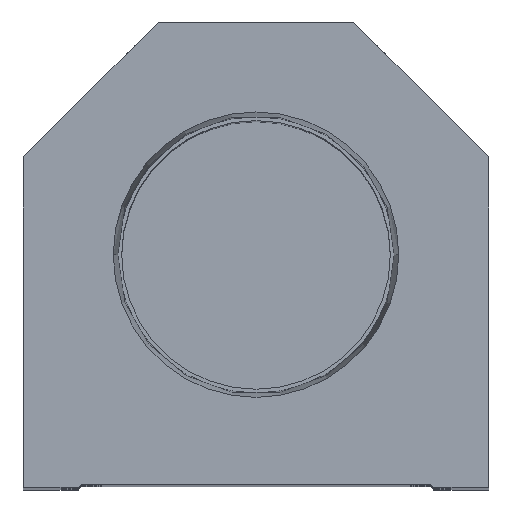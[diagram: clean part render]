
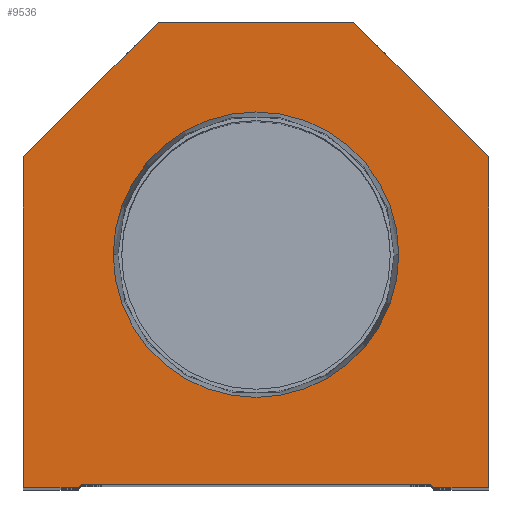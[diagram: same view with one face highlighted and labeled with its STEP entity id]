
A CAD part, top view. The second image highlights one B-rep face of the part: STEP entity #9536.
In plain terms, the highlighted planar face has unit normal (0, 0, 1).
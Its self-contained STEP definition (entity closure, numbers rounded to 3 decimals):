
#240 = DIRECTION ( 'NONE',  ( 1., 0., 0. ) ) ;
#388 = AXIS2_PLACEMENT_3D ( 'NONE', #10777, #7488, #13723 ) ;
#484 = CARTESIAN_POINT ( 'NONE',  ( -28.6, 0., 0. ) ) ;
#854 = ORIENTED_EDGE ( 'NONE', *, *, #19790, .T. ) ;
#895 = VERTEX_POINT ( 'NONE', #5172 ) ;
#1139 = ORIENTED_EDGE ( 'NONE', *, *, #18570, .F. ) ;
#1293 = VERTEX_POINT ( 'NONE', #14335 ) ;
#1573 = AXIS2_PLACEMENT_3D ( 'NONE', #20553, #4680, #14059 ) ;
#1648 = LINE ( 'NONE', #19371, #4025 ) ;
#1798 = EDGE_CURVE ( 'NONE', #14925, #15887, #6845, .T. ) ;
#1963 = CARTESIAN_POINT ( 'NONE',  ( 38.1, 0., 0. ) ) ;
#2237 = ORIENTED_EDGE ( 'NONE', *, *, #11080, .T. ) ;
#2259 = VERTEX_POINT ( 'NONE', #15749 ) ;
#2506 = FACE_OUTER_BOUND ( 'NONE', #7041, .T. ) ;
#3130 = EDGE_LOOP ( 'NONE', ( #1139, #19510 ) ) ;
#3599 = VECTOR ( 'NONE', #15023, 1000. ) ;
#3626 = VERTEX_POINT ( 'NONE', #4149 ) ;
#3836 = EDGE_CURVE ( 'NONE', #15887, #9952, #1648, .T. ) ;
#3888 = ORIENTED_EDGE ( 'NONE', *, *, #20353, .T. ) ;
#3947 = CARTESIAN_POINT ( 'NONE',  ( -38.1, 54.1, 0. ) ) ;
#3977 = LINE ( 'NONE', #13686, #11498 ) ;
#4025 = VECTOR ( 'NONE', #18105, 1000. ) ;
#4149 = CARTESIAN_POINT ( 'NONE',  ( -23.374, 38.1, 0. ) ) ;
#4263 = ORIENTED_EDGE ( 'NONE', *, *, #8380, .T. ) ;
#4516 = EDGE_CURVE ( 'NONE', #3626, #2259, #20417, .T. ) ;
#4630 = EDGE_CURVE ( 'NONE', #5166, #895, #14907, .T. ) ;
#4680 = DIRECTION ( 'NONE',  ( 0., 0., 1. ) ) ;
#4782 = CARTESIAN_POINT ( 'NONE',  ( 0., 38.1, 0. ) ) ;
#4863 = CARTESIAN_POINT ( 'NONE',  ( -29.1, 0., 0. ) ) ;
#5166 = VERTEX_POINT ( 'NONE', #17118 ) ;
#5172 = CARTESIAN_POINT ( 'NONE',  ( 16., 76.2, 0. ) ) ;
#5624 = VECTOR ( 'NONE', #11969, 1000. ) ;
#6579 = AXIS2_PLACEMENT_3D ( 'NONE', #4782, #12782, #20662 ) ;
#6845 = LINE ( 'NONE', #484, #19888 ) ;
#6997 = VECTOR ( 'NONE', #10646, 1000. ) ;
#7022 = ORIENTED_EDGE ( 'NONE', *, *, #4630, .T. ) ;
#7041 = EDGE_LOOP ( 'NONE', ( #12676, #10723, #3888, #2237, #4263, #20501, #7022, #854, #16162, #7090 ) ) ;
#7090 = ORIENTED_EDGE ( 'NONE', *, *, #7806, .T. ) ;
#7338 = VERTEX_POINT ( 'NONE', #9218 ) ;
#7488 = DIRECTION ( 'NONE',  ( 0., 0., 1. ) ) ;
#7806 = EDGE_CURVE ( 'NONE', #19422, #14925, #3977, .T. ) ;
#8287 = CARTESIAN_POINT ( 'NONE',  ( 28.6, 0., 0. ) ) ;
#8380 = EDGE_CURVE ( 'NONE', #7338, #19045, #19324, .T. ) ;
#8597 = CARTESIAN_POINT ( 'NONE',  ( 38.1, 54.1, 0. ) ) ;
#8938 = LINE ( 'NONE', #10741, #9648 ) ;
#9218 = CARTESIAN_POINT ( 'NONE',  ( 29.1, 0., 0. ) ) ;
#9244 = DIRECTION ( 'NONE',  ( -0.707, -0.707, 0. ) ) ;
#9435 = CARTESIAN_POINT ( 'NONE',  ( -38.1, 0., 0. ) ) ;
#9536 = ADVANCED_FACE ( 'NONE', ( #12141, #2506 ), #17182, .T. ) ;
#9648 = VECTOR ( 'NONE', #9244, 1000. ) ;
#9952 = VERTEX_POINT ( 'NONE', #14284 ) ;
#10241 = CARTESIAN_POINT ( 'NONE',  ( 16., 76.2, 0. ) ) ;
#10646 = DIRECTION ( 'NONE',  ( -1., 0., 0. ) ) ;
#10723 = ORIENTED_EDGE ( 'NONE', *, *, #3836, .T. ) ;
#10741 = CARTESIAN_POINT ( 'NONE',  ( -38.1, 54.1, 0. ) ) ;
#10777 = CARTESIAN_POINT ( 'NONE',  ( 0., 0., 0. ) ) ;
#11080 = EDGE_CURVE ( 'NONE', #18588, #7338, #13425, .T. ) ;
#11498 = VECTOR ( 'NONE', #12110, 1000. ) ;
#11969 = DIRECTION ( 'NONE',  ( 1., 0., 0. ) ) ;
#12047 = CARTESIAN_POINT ( 'NONE',  ( 14.55, 14.55, 0. ) ) ;
#12110 = DIRECTION ( 'NONE',  ( 0., -1., 0. ) ) ;
#12141 = FACE_BOUND ( 'NONE', #3130, .T. ) ;
#12579 = CARTESIAN_POINT ( 'NONE',  ( 28.6, 0.5, 0. ) ) ;
#12676 = ORIENTED_EDGE ( 'NONE', *, *, #1798, .T. ) ;
#12782 = DIRECTION ( 'NONE',  ( 0., 0., 1. ) ) ;
#13425 = LINE ( 'NONE', #12047, #19987 ) ;
#13686 = CARTESIAN_POINT ( 'NONE',  ( -38.1, 0., 0. ) ) ;
#13723 = DIRECTION ( 'NONE',  ( 1., 0., 0. ) ) ;
#14059 = DIRECTION ( 'NONE',  ( 1., 0., 0. ) ) ;
#14284 = CARTESIAN_POINT ( 'NONE',  ( -28.6, 0.5, 0. ) ) ;
#14335 = CARTESIAN_POINT ( 'NONE',  ( -16., 76.2, 0. ) ) ;
#14907 = LINE ( 'NONE', #8597, #3599 ) ;
#14922 = EDGE_CURVE ( 'NONE', #19045, #5166, #19126, .T. ) ;
#14925 = VERTEX_POINT ( 'NONE', #9435 ) ;
#15023 = DIRECTION ( 'NONE',  ( -0.707, 0.707, 0. ) ) ;
#15128 = CARTESIAN_POINT ( 'NONE',  ( -28.6, 0.5, 0. ) ) ;
#15459 = LINE ( 'NONE', #10241, #6997 ) ;
#15749 = CARTESIAN_POINT ( 'NONE',  ( 23.374, 38.1, 0. ) ) ;
#15887 = VERTEX_POINT ( 'NONE', #4863 ) ;
#15974 = CIRCLE ( 'NONE', #6579, 23.374 ) ;
#16162 = ORIENTED_EDGE ( 'NONE', *, *, #19090, .T. ) ;
#16962 = VECTOR ( 'NONE', #19225, 1000. ) ;
#17118 = CARTESIAN_POINT ( 'NONE',  ( 38.1, 54.1, 0. ) ) ;
#17182 = PLANE ( 'NONE',  #388 ) ;
#17554 = CARTESIAN_POINT ( 'NONE',  ( 38.1, 0., 0. ) ) ;
#18105 = DIRECTION ( 'NONE',  ( 0.707, 0.707, 0. ) ) ;
#18570 = EDGE_CURVE ( 'NONE', #2259, #3626, #15974, .T. ) ;
#18588 = VERTEX_POINT ( 'NONE', #12579 ) ;
#19045 = VERTEX_POINT ( 'NONE', #1963 ) ;
#19090 = EDGE_CURVE ( 'NONE', #1293, #19422, #8938, .T. ) ;
#19126 = LINE ( 'NONE', #17554, #16962 ) ;
#19225 = DIRECTION ( 'NONE',  ( 0., 1., 0. ) ) ;
#19324 = LINE ( 'NONE', #8287, #20178 ) ;
#19371 = CARTESIAN_POINT ( 'NONE',  ( -14.55, 14.55, 0. ) ) ;
#19422 = VERTEX_POINT ( 'NONE', #3947 ) ;
#19510 = ORIENTED_EDGE ( 'NONE', *, *, #4516, .F. ) ;
#19682 = DIRECTION ( 'NONE',  ( 1., 0., 0. ) ) ;
#19790 = EDGE_CURVE ( 'NONE', #895, #1293, #15459, .T. ) ;
#19824 = DIRECTION ( 'NONE',  ( 0.707, -0.707, 0. ) ) ;
#19888 = VECTOR ( 'NONE', #19682, 1000. ) ;
#19946 = LINE ( 'NONE', #15128, #5624 ) ;
#19987 = VECTOR ( 'NONE', #19824, 1000. ) ;
#20178 = VECTOR ( 'NONE', #240, 1000. ) ;
#20353 = EDGE_CURVE ( 'NONE', #9952, #18588, #19946, .T. ) ;
#20417 = CIRCLE ( 'NONE', #1573, 23.374 ) ;
#20501 = ORIENTED_EDGE ( 'NONE', *, *, #14922, .T. ) ;
#20553 = CARTESIAN_POINT ( 'NONE',  ( 0., 38.1, 0. ) ) ;
#20662 = DIRECTION ( 'NONE',  ( 1., 0., 0. ) ) ;
